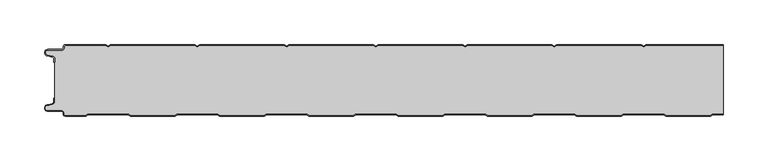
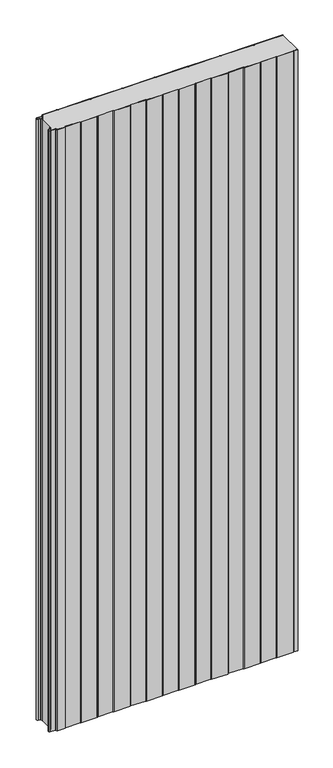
"""IFC4 building model written with IfcOpenShell, lengths in millimetres: plate geometry, PM1_Curtain-Panel_Perfil-Estándar : ACH_PM1_Panel-Acústico-Sectorización_80M."""

from ifc_helpers import new_model, si_unit, point, frame_2d, origin, origin_with_axes, place, context, project, spatial, polyline, circle_curve, trimmed, segment, composite_curve, outline, extrude, source, transform, mapped, element, save


def plate_0b0c5db0(model_context):
    return source(origin(), model_context, "Body", "SweptSolid", [
        extrude(outline(composite_curve([segment(trimmed(circle_curve(frame_2d((-377.0119739, -15.878557)), 2.0), [point((-375.0119739, -15.878557))], [point((-376.5620718, -13.9298169))], True, "CARTESIAN"), True, "CONTINUOUS"), segment(polyline([(-376.5620718, -13.9298169), (-382.7217978, -12.507732)]), True, "CONTINUOUS"), segment(trimmed(circle_curve(frame_2d((-381.9119739, -9.0)), 3.6), [point((-382.7217978, -12.507732))], [point((-381.9119739, -5.4))], False, "CARTESIAN"), True, "CONTINUOUS"), segment(polyline([(-381.9119739, -5.4), (-366.4119739, -5.4)]), True, "CONTINUOUS"), segment(trimmed(circle_curve(frame_2d((-366.4119739, -3.4)), 2.0), [point((-366.4119739, -5.4))], [point((-364.4119739, -3.4))], True, "CARTESIAN"), True, "CONTINUOUS"), segment(polyline([(-364.4119739, -3.4), (-364.4119739, -2.0)]), True, "CONTINUOUS"), segment(trimmed(circle_curve(frame_2d((-362.4119739, -2.0)), 2.0), [point((-364.4119739, -2.0))], [point((-362.4119739, 0.0))], False, "CARTESIAN"), True, "CONTINUOUS"), segment(polyline([(-362.4119739, 0.0), (-317.1119734, 0.0), (-314.4119739, -1.5588455), (-311.7119745, 0.0), (-217.1119734, 0.0), (-214.4119739, -1.5588455), (-211.7119745, 0.0), (-117.1119734, 0.0), (-114.4119739, -1.5588455), (-111.7119745, 0.0), (-17.1119734, 0.0), (-14.4119739, -1.5588455), (-11.7119745, 0.0), (82.8880266, 0.0), (85.5880261, -1.5588455), (88.2880255, 0.0), (182.8880266, 0.0), (185.5880261, -1.5588455), (188.2880255, 0.0), (282.8880266, 0.0), (285.5880261, -1.5588455), (288.2880255, 0.0), (375.0119739, 0.0), (375.0119739, -0.8), (288.5023849, -0.8), (285.5880261, -2.482606), (282.6736672, -0.8), (188.5023849, -0.8), (185.5880261, -2.482606), (182.6736672, -0.8), (88.5023849, -0.8), (85.5880261, -2.482606), (82.6736672, -0.8), (-11.4976151, -0.8), (-14.4119739, -2.482606), (-17.3263328, -0.8), (-111.4976151, -0.8), (-114.4119739, -2.482606), (-117.3263328, -0.8), (-211.4976151, -0.8), (-214.4119739, -2.482606), (-217.3263328, -0.8), (-311.4976151, -0.8), (-314.4119739, -2.482606), (-317.3263328, -0.8), (-362.4119739, -0.8)]), True, "CONTINUOUS"), segment(trimmed(circle_curve(frame_2d((-362.4119739, -2.0)), 1.2), [point((-362.4119739, -0.8))], [point((-363.6119739, -2.0))], True, "CARTESIAN"), True, "CONTINUOUS"), segment(polyline([(-363.6119739, -2.0), (-363.6119739, -3.4)]), True, "CONTINUOUS"), segment(trimmed(circle_curve(frame_2d((-366.4119739, -3.4)), 2.8), [point((-363.6119739, -3.4))], [point((-366.4119739, -6.2))], False, "CARTESIAN"), True, "CONTINUOUS"), segment(polyline([(-366.4119739, -6.2), (-381.9119739, -6.2)]), True, "CONTINUOUS"), segment(trimmed(circle_curve(frame_2d((-381.9119739, -9.0)), 2.8), [point((-381.9119739, -6.2))], [point((-382.541837, -11.7282362))], True, "CARTESIAN"), True, "CONTINUOUS"), segment(polyline([(-382.541837, -11.7282362), (-376.3821109, -13.150321)]), True, "CONTINUOUS"), segment(trimmed(circle_curve(frame_2d((-377.0119739, -15.878557)), 2.8), [point((-376.3821109, -13.150321))], [point((-374.2119739, -15.878557))], False, "CARTESIAN"), True, "CONTINUOUS"), segment(polyline([(-374.2119739, -15.878557), (-374.2119739, -20.0), (-375.0119739, -20.0), (-375.0119739, -15.878557)]), True, "CONTINUOUS")], self_intersect=False)), origin_with_axes(), (0.0, 0.0, 1.0), 1945.7507136),
        extrude(outline(composite_curve([segment(polyline([(-374.2119739, -64.121443), (-374.2119739, -15.8785573)]), True, "CONTINUOUS"), segment(trimmed(circle_curve(frame_2d((-377.0119739, -15.8785573)), 2.8), [point((-374.2119739, -15.8785573))], [point((-376.3821109, -13.1503212))], True, "CARTESIAN"), True, "CONTINUOUS"), segment(polyline([(-376.3821109, -13.1503212), (-382.541837, -11.7282362)]), True, "CONTINUOUS"), segment(trimmed(circle_curve(frame_2d((-381.911974, -9.0)), 2.8), [point((-382.541837, -11.7282362))], [point((-381.911974, -6.2))], False, "CARTESIAN"), True, "CONTINUOUS"), segment(polyline([(-381.911974, -6.2), (-366.411974, -6.2)]), True, "CONTINUOUS"), segment(trimmed(circle_curve(frame_2d((-366.411974, -3.4)), 2.8), [point((-366.411974, -6.2))], [point((-363.611974, -3.4))], True, "CARTESIAN"), True, "CONTINUOUS"), segment(polyline([(-363.611974, -3.4), (-363.611974, -2.0)]), True, "CONTINUOUS"), segment(trimmed(circle_curve(frame_2d((-362.411974, -2.0)), 1.2), [point((-363.611974, -2.0))], [point((-362.411974, -0.8))], False, "CARTESIAN"), True, "CONTINUOUS"), segment(polyline([(-362.411974, -0.8), (-317.3263329, -0.8), (-314.411974, -2.482606), (-311.4976152, -0.8), (-217.3263329, -0.8), (-214.411974, -2.482606), (-211.4976152, -0.8), (-117.3263329, -0.8), (-114.411974, -2.482606), (-111.4976152, -0.8), (-17.3263329, -0.8), (-14.411974, -2.482606), (-11.4976152, -0.8), (82.6736671, -0.8), (85.588026, -2.482606), (88.5023848, -0.8), (182.6736671, -0.8), (185.588026, -2.482606), (188.5023848, -0.8), (282.6736671, -0.8), (285.588026, -2.482606), (288.5023848, -0.8), (375.0119739, -0.8), (375.0119739, -77.7), (362.9717445, -77.7), (360.3736669, -79.2), (310.7985382, -79.2), (308.2004606, -77.7), (262.9717445, -77.7), (260.3736669, -79.2), (210.7985382, -79.2), (208.2004606, -77.7), (162.9717445, -77.7), (160.3736669, -79.2), (110.7985382, -79.2), (108.2004606, -77.7), (62.9717445, -77.7), (60.3736669, -79.2), (10.7985382, -79.2), (8.2004606, -77.7), (-37.0282555, -77.7), (-39.6263331, -79.2), (-89.2014618, -79.2), (-91.7995394, -77.7), (-137.0282555, -77.7), (-139.6263331, -79.2), (-189.2014618, -79.2), (-191.7995394, -77.7), (-237.0282555, -77.7), (-239.6263331, -79.2), (-289.2014618, -79.2), (-291.7995394, -77.7), (-337.0282555, -77.7), (-339.6263331, -79.2), (-362.4119739, -79.2)]), True, "CONTINUOUS"), segment(trimmed(circle_curve(frame_2d((-362.4119739, -78.0)), 1.2), [point((-362.4119739, -79.2))], [point((-363.6119739, -78.0))], False, "CARTESIAN"), True, "CONTINUOUS"), segment(polyline([(-363.6119739, -78.0), (-363.6119739, -76.5999998)]), True, "CONTINUOUS"), segment(trimmed(circle_curve(frame_2d((-366.4119739, -76.5999998)), 2.8), [point((-363.6119739, -76.5999998))], [point((-366.4119739, -73.7999998))], True, "CARTESIAN"), True, "CONTINUOUS"), segment(polyline([(-366.4119739, -73.7999998), (-381.9119739, -73.7999998)]), True, "CONTINUOUS"), segment(trimmed(circle_curve(frame_2d((-381.9119739, -71.0)), 2.7999998), [point((-381.9119739, -73.7999998))], [point((-382.5418369, -68.271764))], False, "CARTESIAN"), True, "CONTINUOUS"), segment(polyline([(-382.5418369, -68.271764), (-376.3821109, -66.8496792)]), True, "CONTINUOUS"), segment(trimmed(circle_curve(frame_2d((-377.0119739, -64.121443)), 2.8), [point((-376.3821109, -66.8496792))], [point((-374.2119739, -64.121443))], True, "CARTESIAN"), True, "CONTINUOUS")], self_intersect=False)), origin_with_axes(), (0.0, 0.0, 1.0), 1945.7507136),
        extrude(outline(composite_curve([segment(trimmed(circle_curve(frame_2d((-362.4119739, -78.0)), 2.0), [point((-362.4119739, -80.0))], [point((-364.4119739, -78.0))], False, "CARTESIAN"), True, "CONTINUOUS"), segment(polyline([(-364.4119739, -78.0), (-364.4119739, -76.6)]), True, "CONTINUOUS"), segment(trimmed(circle_curve(frame_2d((-366.4119739, -76.6)), 2.0), [point((-364.4119739, -76.6))], [point((-366.4119739, -74.6))], True, "CARTESIAN"), True, "CONTINUOUS"), segment(polyline([(-366.4119739, -74.6), (-381.9119739, -74.6)]), True, "CONTINUOUS"), segment(trimmed(circle_curve(frame_2d((-381.9119739, -71.0)), 3.6), [point((-381.9119739, -74.6))], [point((-382.7217979, -67.4922678))], False, "CARTESIAN"), True, "CONTINUOUS"), segment(polyline([(-382.7217979, -67.4922678), (-376.5620718, -66.070183)]), True, "CONTINUOUS"), segment(trimmed(circle_curve(frame_2d((-377.0119739, -64.121443)), 2.0), [point((-376.5620718, -66.070183))], [point((-375.0119739, -64.121443))], True, "CARTESIAN"), True, "CONTINUOUS"), segment(polyline([(-375.0119739, -64.121443), (-375.0119739, -60.0), (-374.2119739, -60.0), (-374.2119739, -64.121443)]), True, "CONTINUOUS"), segment(trimmed(circle_curve(frame_2d((-377.0119739, -64.121443)), 2.8), [point((-374.2119739, -64.121443))], [point((-376.3821109, -66.8496792))], False, "CARTESIAN"), True, "CONTINUOUS"), segment(polyline([(-376.3821109, -66.8496792), (-382.5418369, -68.271764)]), True, "CONTINUOUS"), segment(trimmed(circle_curve(frame_2d((-381.9119739, -71.0)), 2.8), [point((-382.5418369, -68.271764))], [point((-381.9119739, -73.8))], True, "CARTESIAN"), True, "CONTINUOUS"), segment(polyline([(-381.9119739, -73.8), (-366.4119739, -73.8)]), True, "CONTINUOUS"), segment(trimmed(circle_curve(frame_2d((-366.4119739, -76.6)), 2.8), [point((-366.4119739, -73.8))], [point((-363.6119739, -76.6))], False, "CARTESIAN"), True, "CONTINUOUS"), segment(polyline([(-363.6119739, -76.6), (-363.6119739, -78.0)]), True, "CONTINUOUS"), segment(trimmed(circle_curve(frame_2d((-362.4119739, -78.0)), 1.2), [point((-363.6119739, -78.0))], [point((-362.4119739, -79.2))], True, "CARTESIAN"), True, "CONTINUOUS"), segment(polyline([(-362.4119739, -79.2), (-339.6263331, -79.2), (-337.0282555, -77.7), (-291.7995394, -77.7), (-289.2014618, -79.2), (-239.6263331, -79.2), (-237.0282555, -77.7), (-191.7995394, -77.7), (-189.2014618, -79.2), (-139.6263331, -79.2), (-137.0282555, -77.7), (-91.7995394, -77.7), (-89.2014618, -79.2), (-39.6263331, -79.2), (-37.0282555, -77.7), (8.2004606, -77.7), (10.7985382, -79.2), (60.3736669, -79.2), (62.9717445, -77.7), (108.2004606, -77.7), (110.7985382, -79.2), (160.3736669, -79.2), (162.9717445, -77.7), (208.2004606, -77.7), (210.7985382, -79.2), (260.3736669, -79.2), (262.9717445, -77.7), (308.2004606, -77.7), (310.7985382, -79.2), (360.3736669, -79.2), (362.9717445, -77.7), (375.0119739, -77.7), (375.0119739, -78.5), (363.1861037, -78.5), (360.5880261, -80.0), (310.584179, -80.0), (307.9861014, -78.5), (263.1861037, -78.5), (260.5880261, -80.0), (210.584179, -80.0), (207.9861014, -78.5), (163.1861037, -78.5), (160.5880261, -80.0), (110.584179, -80.0), (107.9861014, -78.5), (63.1861037, -78.5), (60.5880261, -80.0), (10.584179, -80.0), (7.9861014, -78.5), (-36.8138963, -78.5), (-39.4119739, -80.0), (-89.415821, -80.0), (-92.0138986, -78.5), (-136.8138963, -78.5), (-139.4119739, -80.0), (-189.415821, -80.0), (-192.0138986, -78.5), (-236.8138963, -78.5), (-239.4119739, -80.0), (-289.415821, -80.0), (-292.0138986, -78.5), (-336.8138963, -78.5), (-339.4119739, -80.0), (-362.4119739, -80.0)]), True, "CONTINUOUS")], self_intersect=False)), origin_with_axes(), (0.0, 0.0, 1.0), 1945.7507136),
    ])


if __name__ == "__main__":
    model = new_model("IFC4")
    model_context = context("Model", 3, world=origin())
    ifc_project = project(units=[si_unit("LENGTHUNIT", "METRE", prefix="MILLI")], contexts=[model_context])
    site = spatial("IfcSite", under=ifc_project)
    building = spatial("IfcBuilding", under=site)
    placement = place(None, origin())
    plate_shape = plate_0b0c5db0(model_context)
    element("IfcPlate", 1, ObjectType="PM1_Curtain-Panel_Perfil-Estándar : ACH_PM1_Panel-Acústico-Sectorización_80M", at=placement, inside=building, context=model_context, shape_type="MappedRepresentation", body=[
        mapped(plate_shape, transform((0.0, 0.0, 0.0), x_axis=(1.0, 0.0, 0.0), y_axis=(0.0, 1.0, 0.0), z_axis=(0.0, 0.0, 1.0))),
    ])
    save(model, "model.ifc")
